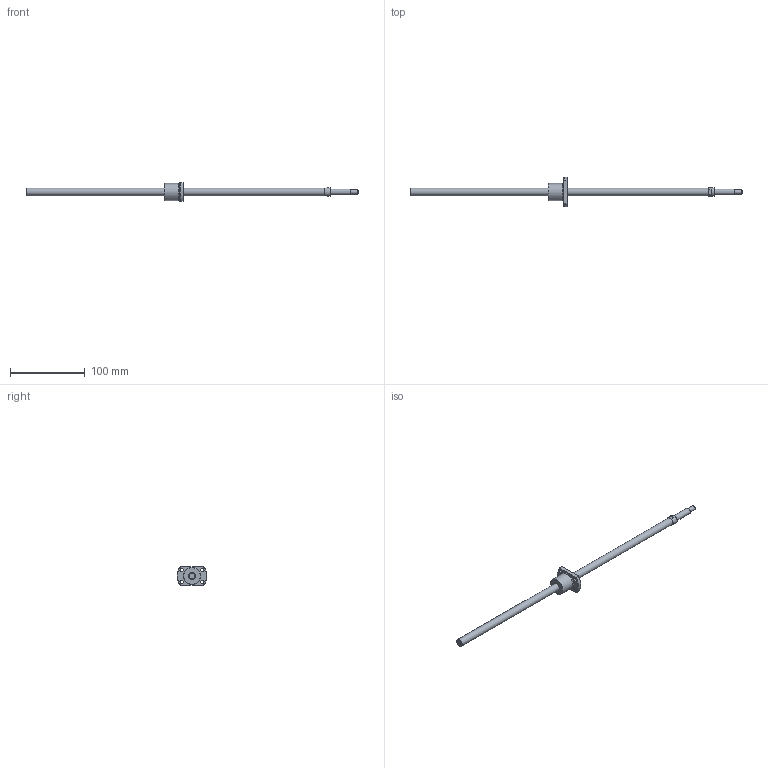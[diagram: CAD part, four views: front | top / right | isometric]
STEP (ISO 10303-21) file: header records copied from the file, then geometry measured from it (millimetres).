
FILE_DESCRIPTION(/* description */ ('STEP AP214'),/* implementation_level */ '2;1');
FILE_NAME(/* name */ 'SRT1005-396R445C7A0X(185Processing)',/* time_stamp */ '2026-08-06T15:09:31+02:00',/* author */ ('License CC BY-ND 4.0'),/* organization */ ('CADENAS'),/* preprocessor_version */ 'ST-DEVELOPER v20',/* originating_system */ 'PARTsolutions',/* authorisation */ ' ');
FILE_SCHEMA (('AUTOMOTIVE_DESIGN {1 0 10303 214 3 1 1}'));
Length unit declared in the file: millimetre
Products named in the file (3): SRT1005-396R445C7A0X(185Processing); SRT1005-396R470ACt7Processing62Shaft; SRT1005Nut
Assembly tree (2 placements, depth 2):
  SRT1005-396R445C7A0X(185Processing)
    SRT1005-396R470ACt7Processing62Shaft
    SRT1005Nut
Bounding box: 445 x 40 x 25 mm (x, y, z)
Volume: 44816.7 mm3; surface area: 18627.6 mm2
Topology: 2 solids, 2 shells, 39 faces, 88 edges, 57 vertices
Faces by surface type: plane 16, cylinder 13, cone 9, torus 1
Full cylindrical faces by diameter (mm): 4.5 x4, 6 x1, 8 x1, 10 x2, 11.5 x1, 22.7 x1, 23 x1
Entity records: 1075 total; most frequent: CARTESIAN_POINT 184, DIRECTION 182, ORIENTED_EDGE 132, AXIS2_PLACEMENT_3D 82, EDGE_LOOP 70, FACE_BOUND 70, EDGE_CURVE 66, VERTEX_POINT 52
